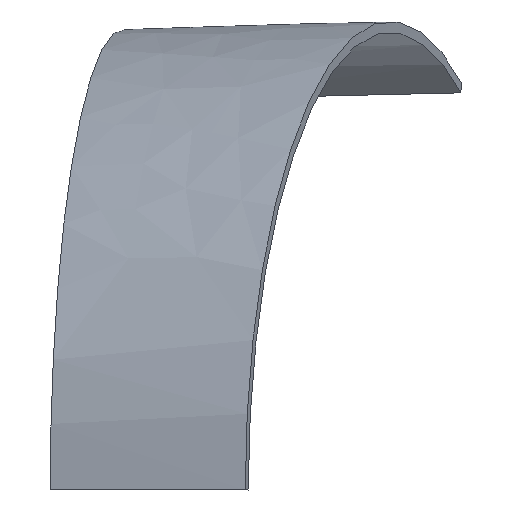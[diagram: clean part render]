
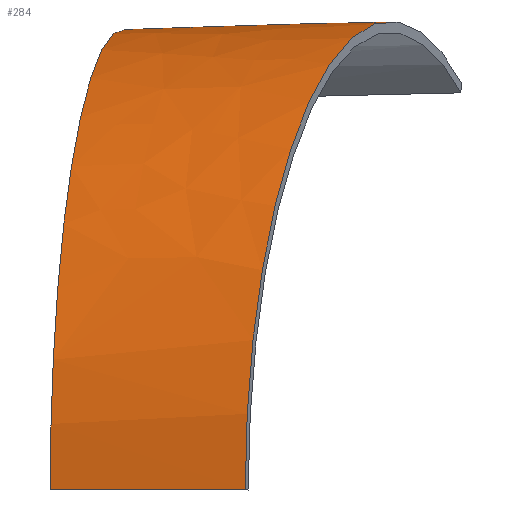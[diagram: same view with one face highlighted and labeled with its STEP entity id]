
A CAD part, left-side view. The second image highlights one B-rep face of the part: STEP entity #284.
In plain terms, the highlighted free-form (B-spline) face has degree [3, 3] with [13, 4] control points.
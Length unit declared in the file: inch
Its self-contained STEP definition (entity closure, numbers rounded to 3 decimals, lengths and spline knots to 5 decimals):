
#1 = CARTESIAN_POINT ( 'NONE',  ( 98.08632, -15.46941, 24.74271 ) ) ;
#3 = CARTESIAN_POINT ( 'NONE',  ( 94.08674, -30.58288, 25.17997 ) ) ;
#12 = CARTESIAN_POINT ( 'NONE',  ( 83.36115, -27.11604, 0.12791 ) ) ;
#15 = ORIENTED_EDGE ( 'NONE', *, *, #116, .T. ) ;
#20 = VERTEX_POINT ( 'NONE', #74 ) ;
#21 = CARTESIAN_POINT ( 'NONE',  ( 110.11992, -29.48816, 32.14246 ) ) ;
#24 = CARTESIAN_POINT ( 'NONE',  ( 86.08751, -23.04111, 11.26817 ) ) ;
#26 = CARTESIAN_POINT ( 'NONE',  ( 95.41995, -25.54506, 25.03423 ) ) ;
#27 = CARTESIAN_POINT ( 'NONE',  ( 100.11032, -26.80325, 27.84557 ) ) ;
#28 = CARTESIAN_POINT ( 'NONE',  ( 130.97842, -35.08186, 27.90897 ) ) ;
#32 = CARTESIAN_POINT ( 'NONE',  ( 124.74402, -40.48891, 30.87836 ) ) ;
#38 = CARTESIAN_POINT ( 'NONE',  ( 130.97842, -35.08186, 27.90897 ) ) ;
#39 = B_SPLINE_CURVE_WITH_KNOTS ( 'NONE', 3,
 ( #113, #38, #313, #160 ),
 .UNSPECIFIED., .F., .F.,
 ( 4, 4 ),
 ( 0., 1. ),
 .UNSPECIFIED. ) ;
#41 = ORIENTED_EDGE ( 'NONE', *, *, #253, .T. ) ;
#44 = CARTESIAN_POINT ( 'NONE',  ( 84.62475, -22.64859, 0.12794 ) ) ;
#45 = CARTESIAN_POINT ( 'NONE',  ( 87.17406, -13.71724, 5.68392 ) ) ;
#46 = CARTESIAN_POINT ( 'NONE',  ( 108.69172, -35.30249, 32.32902 ) ) ;
#49 = CARTESIAN_POINT ( 'NONE',  ( 94.13778, -14.83545, 20.75038 ) ) ;
#50 = CARTESIAN_POINT ( 'NONE',  ( 83.36115, -27.11604, 0.12791 ) ) ;
#58 = CARTESIAN_POINT ( 'NONE',  ( 107.58815, -16.99468, 30.30052 ) ) ;
#65 = VERTEX_POINT ( 'NONE', #219 ) ;
#66 = CARTESIAN_POINT ( 'NONE',  ( 84.81433, -27.58582, 11.33353 ) ) ;
#68 = CARTESIAN_POINT ( 'NONE',  ( 119.45385, -38.77977, 32.35085 ) ) ;
#71 = CARTESIAN_POINT ( 'NONE',  ( 92.82966, -19.6673, 20.87265 ) ) ;
#74 = CARTESIAN_POINT ( 'NONE',  ( 83.36115, -27.11604, 0.12791 ) ) ;
#75 = CARTESIAN_POINT ( 'NONE',  ( 94.13778, -14.83545, 20.75038 ) ) ;
#81 = CARTESIAN_POINT ( 'NONE',  ( 134.10643, -21.25004, 27.5871 ) ) ;
#93 = EDGE_LOOP ( 'NONE', ( #207, #15, #41, #181 ) ) ;
#94 = CARTESIAN_POINT ( 'NONE',  ( 115.53617, -30.94074, 32.15358 ) ) ;
#97 = CARTESIAN_POINT ( 'NONE',  ( 83.36115, -27.11604, 0.12791 ) ) ;
#98 = CARTESIAN_POINT ( 'NONE',  ( 84.64631, -22.65436, 5.74984 ) ) ;
#100 = CARTESIAN_POINT ( 'NONE',  ( 103.40692, -33.59482, 30.83508 ) ) ;
#113 = CARTESIAN_POINT ( 'NONE',  ( 129.41439, -41.99776, 28.06992 ) ) ;
#115 = CARTESIAN_POINT ( 'NONE',  ( 84.62475, -22.64859, 0.12794 ) ) ;
#116 = EDGE_CURVE ( 'NONE', #65, #237, #39, .T. ) ;
#118 = CARTESIAN_POINT ( 'NONE',  ( 129.34384, -20.48595, 30.34624 ) ) ;
#120 = CARTESIAN_POINT ( 'NONE',  ( 111.54811, -23.67382, 31.95589 ) ) ;
#122 = CARTESIAN_POINT ( 'NONE',  ( 87.51387, -28.4584, 16.22534 ) ) ;
#123 = CARTESIAN_POINT ( 'NONE',  ( 87.36068, -18.4964, 11.20281 ) ) ;
#124 = CARTESIAN_POINT ( 'NONE',  ( 104.80068, -28.06144, 30.6569 ) ) ;
#125 = CARTESIAN_POINT ( 'NONE',  ( 87.15196, -13.71369, 0.128 ) ) ;
#128 = EDGE_CURVE ( 'NONE', #159, #20, #264, .T. ) ;
#134 = CARTESIAN_POINT ( 'NONE',  ( 126.27731, -33.82126, 30.70098 ) ) ;
#139 = CARTESIAN_POINT ( 'NONE',  ( 85.88836, -18.18114, 0.12797 ) ) ;
#140 = CARTESIAN_POINT ( 'NONE',  ( 102.83723, -16.23204, 27.52162 ) ) ;
#142 = CARTESIAN_POINT ( 'NONE',  ( 122.45098, -26.00687, 31.97854 ) ) ;
#144 = CARTESIAN_POINT ( 'NONE',  ( 88.63384, -13.95168, 11.13743 ) ) ;
#147 = CARTESIAN_POINT ( 'NONE',  ( 96.75314, -20.50724, 24.88848 ) ) ;
#149 = CARTESIAN_POINT ( 'NONE',  ( 90.21341, -29.33098, 21.11716 ) ) ;
#157 = CARTESIAN_POINT ( 'NONE',  ( 134.10643, -21.25004, 27.5871 ) ) ;
#159 = VERTEX_POINT ( 'NONE', #318 ) ;
#160 = CARTESIAN_POINT ( 'NONE',  ( 134.10643, -21.25004, 27.5871 ) ) ;
#163 = CARTESIAN_POINT ( 'NONE',  ( 87.15196, -13.71369, 0.128 ) ) ;
#165 = CARTESIAN_POINT ( 'NONE',  ( 103.40692, -33.59482, 30.83508 ) ) ;
#167 = CARTESIAN_POINT ( 'NONE',  ( 94.08674, -30.58288, 25.17997 ) ) ;
#169 = CARTESIAN_POINT ( 'NONE',  ( 91.38581, -14.39357, 15.94391 ) ) ;
#171 = CARTESIAN_POINT ( 'NONE',  ( 119.45385, -38.77977, 32.35085 ) ) ;
#179 = CARTESIAN_POINT ( 'NONE',  ( 87.15196, -13.71369, 0.128 ) ) ;
#181 = ORIENTED_EDGE ( 'NONE', *, *, #128, .T. ) ;
#184 = CARTESIAN_POINT ( 'NONE',  ( 85.91018, -18.1858, 5.71688 ) ) ;
#185 = CARTESIAN_POINT ( 'NONE',  ( 116.99954, -24.84034, 31.96721 ) ) ;
#188 = CARTESIAN_POINT ( 'NONE',  ( 90.09517, -19.08185, 16.03773 ) ) ;
#190 = CARTESIAN_POINT ( 'NONE',  ( 88.63384, -13.95168, 11.13743 ) ) ;
#192 = CARTESIAN_POINT ( 'NONE',  ( 108.69172, -35.30249, 32.32902 ) ) ;
#207 = ORIENTED_EDGE ( 'NONE', *, *, #259, .T. ) ;
#208 = CARTESIAN_POINT ( 'NONE',  ( 123.94952, -19.62041, 31.79238 ) ) ;
#210 = CARTESIAN_POINT ( 'NONE',  ( 112.97627, -17.85947, 31.76932 ) ) ;
#214 = FACE_OUTER_BOUND ( 'NONE', #93, .T. ) ;
#216 = CARTESIAN_POINT ( 'NONE',  ( 106.19443, -22.52806, 30.47872 ) ) ;
#217 = CARTESIAN_POINT ( 'NONE',  ( 124.74402, -40.48891, 30.87836 ) ) ;
#219 = CARTESIAN_POINT ( 'NONE',  ( 129.41439, -41.99776, 28.06992 ) ) ;
#227 = B_SPLINE_SURFACE_WITH_KNOTS ( 'NONE', 3, 3, ( 
 ( #97, #44, #241, #125 ),
 ( #325, #98, #184, #45 ),
 ( #273, #24, #123, #190 ),
 ( #122, #295, #188, #169 ),
 ( #293, #270, #71, #49 ),
 ( #167, #26, #147, #1 ),
 ( #243, #27, #291, #140 ),
 ( #100, #124, #216, #238 ),
 ( #192, #21, #120, #210 ),
 ( #320, #94, #185, #292 ),
 ( #68, #265, #142, #239 ),
 ( #32, #134, #303, #257 ),
 ( #281, #28, #247, #81 ) ),
 .UNSPECIFIED., .F., .F., .F.,
 ( 4, 3, 3, 3, 4 ),
 ( 4, 4 ),
 ( 0., 0.25, 0.5, 0.75, 1. ),
 ( 0., 1. ),
 .UNSPECIFIED. ) ;
#230 = B_SPLINE_CURVE_WITH_KNOTS ( 'NONE', 3,
 ( #262, #118, #208, #285, #58, #258, #75, #144, #298, #163 ),
 .UNSPECIFIED., .F., .F.,
 ( 4, 2, 2, 2, 4 ),
 ( 0., 0.25, 0.5, 0.75, 1. ),
 .UNSPECIFIED. ) ;
#237 = VERTEX_POINT ( 'NONE', #157 ) ;
#238 = CARTESIAN_POINT ( 'NONE',  ( 107.58815, -16.99468, 30.30052 ) ) ;
#239 = CARTESIAN_POINT ( 'NONE',  ( 123.94952, -19.62041, 31.79238 ) ) ;
#241 = CARTESIAN_POINT ( 'NONE',  ( 85.88836, -18.18114, 0.12797 ) ) ;
#243 = CARTESIAN_POINT ( 'NONE',  ( 98.74683, -32.08885, 28.00752 ) ) ;
#247 = CARTESIAN_POINT ( 'NONE',  ( 132.54243, -28.16595, 27.74804 ) ) ;
#253 = EDGE_CURVE ( 'NONE', #237, #159, #230, .T. ) ;
#257 = CARTESIAN_POINT ( 'NONE',  ( 129.34384, -20.48595, 30.34624 ) ) ;
#258 = CARTESIAN_POINT ( 'NONE',  ( 98.08632, -15.46941, 24.74271 ) ) ;
#259 = EDGE_CURVE ( 'NONE', #20, #65, #275, .T. ) ;
#262 = CARTESIAN_POINT ( 'NONE',  ( 134.10643, -21.25004, 27.5871 ) ) ;
#263 = CARTESIAN_POINT ( 'NONE',  ( 83.38243, -27.12292, 5.7828 ) ) ;
#264 = B_SPLINE_CURVE_WITH_KNOTS ( 'NONE', 3,
 ( #179, #139, #115, #12 ),
 .UNSPECIFIED., .F., .F.,
 ( 4, 4 ),
 ( 0., 1. ),
 .UNSPECIFIED. ) ;
#265 = CARTESIAN_POINT ( 'NONE',  ( 120.95242, -32.39332, 32.16469 ) ) ;
#270 = CARTESIAN_POINT ( 'NONE',  ( 91.52154, -24.49914, 20.99491 ) ) ;
#273 = CARTESIAN_POINT ( 'NONE',  ( 84.81433, -27.58582, 11.33353 ) ) ;
#275 = B_SPLINE_CURVE_WITH_KNOTS ( 'NONE', 3,
 ( #50, #263, #66, #149, #3, #165, #46, #171, #217, #323 ),
 .UNSPECIFIED., .F., .F.,
 ( 4, 2, 2, 2, 4 ),
 ( 0., 0.25, 0.5, 0.75, 1. ),
 .UNSPECIFIED. ) ;
#281 = CARTESIAN_POINT ( 'NONE',  ( 129.41439, -41.99776, 28.06992 ) ) ;
#284 = ADVANCED_FACE ( 'NONE', ( #214 ), #227, .T. ) ;
#285 = CARTESIAN_POINT ( 'NONE',  ( 112.97627, -17.85947, 31.76932 ) ) ;
#291 = CARTESIAN_POINT ( 'NONE',  ( 101.47378, -21.51765, 27.6836 ) ) ;
#292 = CARTESIAN_POINT ( 'NONE',  ( 118.46289, -18.73994, 31.78085 ) ) ;
#293 = CARTESIAN_POINT ( 'NONE',  ( 90.21341, -29.33098, 21.11716 ) ) ;
#295 = CARTESIAN_POINT ( 'NONE',  ( 88.80452, -23.77013, 16.13154 ) ) ;
#298 = CARTESIAN_POINT ( 'NONE',  ( 87.17406, -13.71724, 5.68392 ) ) ;
#303 = CARTESIAN_POINT ( 'NONE',  ( 127.81059, -27.15361, 30.52361 ) ) ;
#313 = CARTESIAN_POINT ( 'NONE',  ( 132.54243, -28.16595, 27.74804 ) ) ;
#318 = CARTESIAN_POINT ( 'NONE',  ( 87.15196, -13.71369, 0.128 ) ) ;
#320 = CARTESIAN_POINT ( 'NONE',  ( 114.07278, -37.04113, 32.33993 ) ) ;
#323 = CARTESIAN_POINT ( 'NONE',  ( 129.41439, -41.99776, 28.06992 ) ) ;
#325 = CARTESIAN_POINT ( 'NONE',  ( 83.38243, -27.12292, 5.7828 ) ) ;
